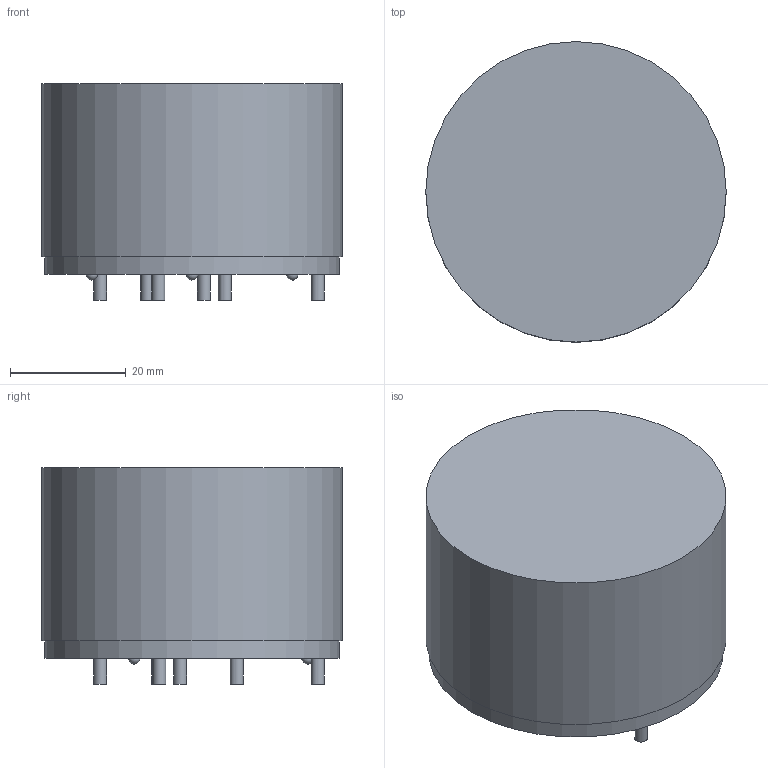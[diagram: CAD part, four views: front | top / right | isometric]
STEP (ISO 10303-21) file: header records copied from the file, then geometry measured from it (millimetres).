
FILE_DESCRIPTION(/* description */ (''),/* implementation_level */ '2;1');
FILE_NAME(/* name */ 'F:\Done\2016\多产品3D模拟\\X2\4FEE653994885F84\X0\\6123-X321\6123-X321 3D Model.stp',/* time_stamp */ '2016-07-08T16:08:28+08:00',/* author */ ('CN000562'),/* organization */ (''),/* preprocessor_version */ 'ST-DEVELOPER v16.5',/* originating_system */ 'Autodesk Inventor 2017',/* authorisation */ '');
FILE_SCHEMA (('AUTOMOTIVE_DESIGN { 1 0 10303 214 3 1 1 }'));
Length unit declared in the file: millimetre
Products named in the file (1): 6123-X316
Bounding box: 52 x 52 x 37.5 mm (x, y, z)
Volume: 69945.6 mm3; surface area: 9839.4 mm2
Topology: 1 solids, 1 shells, 23 faces, 43 edges, 29 vertices
Faces by surface type: cylinder 10, plane 10, sphere 3
Full cylindrical faces by diameter (mm): 2.24 x6, 52 x1
Entity records: 514 total; most frequent: DIRECTION 98, CARTESIAN_POINT 74, ORIENTED_EDGE 54, AXIS2_PLACEMENT_3D 47, EDGE_LOOP 40, EDGE_CURVE 27, FACE_OUTER_BOUND 23, CIRCLE 23
